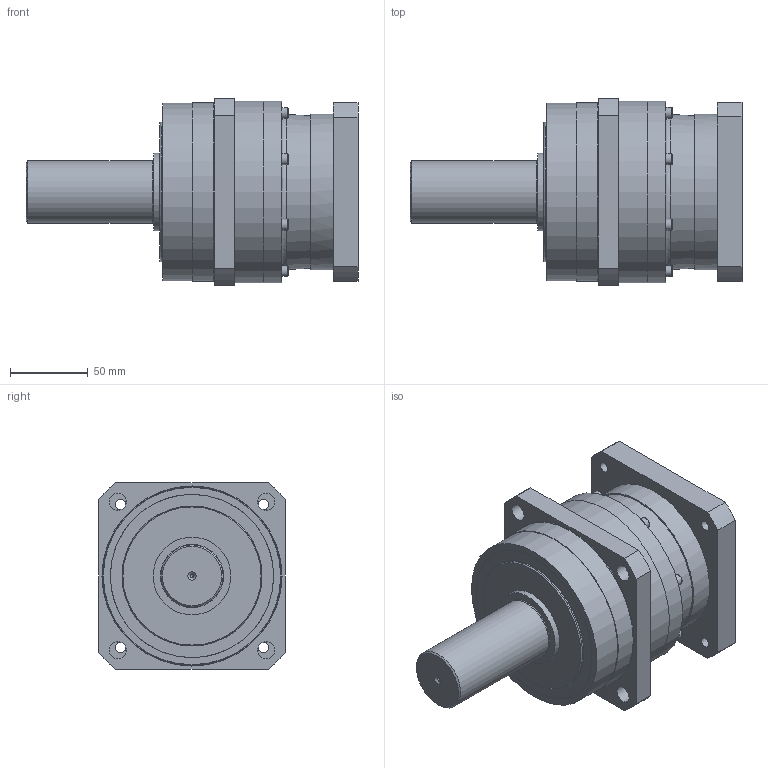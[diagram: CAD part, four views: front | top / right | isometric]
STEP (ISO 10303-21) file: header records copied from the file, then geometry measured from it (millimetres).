
FILE_DESCRIPTION(/* description */ ('ANFX-P130N-1-M45G'),/* implementation_level */ '2;1');
FILE_NAME(/* name */ 'C:\Users\ADMINI~1\AppData\Local\Temp\MM581454_ANFX-P130N-1-M45G.stp',/* time_stamp */ '2018-06-20T10:07:01+02:00',/* author */ ('Max'),/* organization */ (''),/* preprocessor_version */ 'ST-DEVELOPER v17',/* originating_system */ 'Autodesk Inventor 2018',/* authorisation */ '');
FILE_SCHEMA (('AUTOMOTIVE_DESIGN { 1 0 10303 214 3 1 1 }'));
Length unit declared in the file: millimetre
Products named in the file (16): MM579206; MMBG0004078; MMCL445LG; MMCM226LG; MAX4841G; MAW8388G; MMBG0004105; MMCH509LG; 5006008RS---G; 211554; M530A406212--G; MMAP6504G; 009M005R014NG; 135765; 204174; MAW8794G
Assembly tree (29 placements, depth 3):
  MM579206
    MMBG0004078
      MMCL445LG
      MMCM226LG
      MAX4841G
      MAW8388G
    MMBG0004105
      MMCH509LG
      5006008RS---G
      211554  x8
      M530A406212--G
      MMAP6504G
      009M005R014NG
    135765
    204174  x8
    MAW8794G
Bounding box: 213.5 x 120 x 120 mm (x, y, z)
Volume: 972187.1 mm3; surface area: 263494.3 mm2
Topology: 86 solids, 87 shells, 590 faces, 1664 edges, 1188 vertices
Faces by surface type: plane 245, cylinder 169, cone 68, sphere 58, torus 50
Full cylindrical faces by diameter (mm): 2.5 x1, 3.242 x10, 4 x9, 4.134 x1, 4.5 x8, 4.917 x8, 5 x1, 5.5 x1, 6 x8, 6.6 x8, 6.647 x4, 7 x8, 8.5 x1, 10 x8, 11 x12, 15 x1, 15.2 x1, 15.6 x1, 18 x1, 20.5 x1, 28 x1, 35 x1, 37 x1, 38 x1, 39.4 x1, 39.6 x1, 40 x3, 42 x1, 45 x1, 45.28 x1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
Entity records: 13782 total; most frequent: CARTESIAN_POINT 2513, DIRECTION 2495, ORIENTED_EDGE 1964, AXIS2_PLACEMENT_3D 1118, EDGE_CURVE 982, VERTEX_POINT 803, CIRCLE 686, EDGE_LOOP 525
